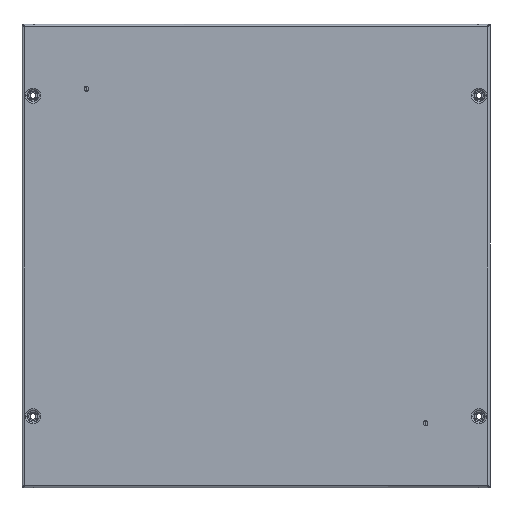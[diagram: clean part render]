
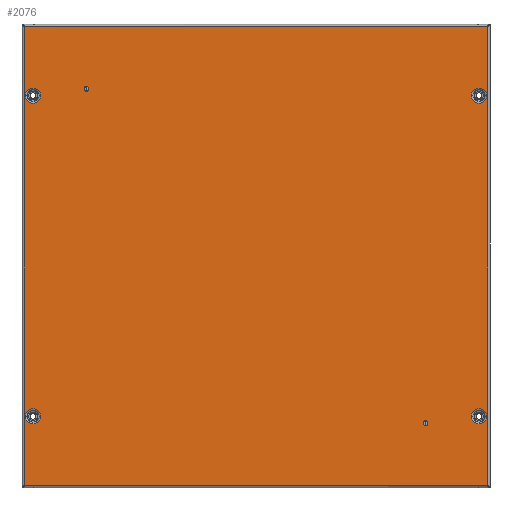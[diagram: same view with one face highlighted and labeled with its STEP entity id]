
A CAD part, top view. The second image highlights one B-rep face of the part: STEP entity #2076.
In plain terms, the highlighted planar face has unit normal (0, 0, 1) as drawn and (0, 0, -1) by its records, which use the part's own axes.
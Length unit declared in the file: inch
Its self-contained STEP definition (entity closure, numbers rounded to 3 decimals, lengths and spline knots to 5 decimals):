
#2060 = ORIENTED_EDGE ( 'NONE', *, *, #2344, .F. ) ;
#2061 = EDGE_CURVE ( 'NONE', #2577, #2586, #4369, .T. ) ;
#2062 = VERTEX_POINT ( 'NONE', #4361 ) ;
#2064 = EDGE_LOOP ( 'NONE', ( #2074, #2065 ) ) ;
#2065 = ORIENTED_EDGE ( 'NONE', *, *, #2061, .F. ) ;
#2066 = EDGE_LOOP ( 'NONE', ( #2080, #2071, #2078, #2084 ) ) ;
#2067 = EDGE_CURVE ( 'NONE', #2069, #2062, #4370, .T. ) ;
#2069 = VERTEX_POINT ( 'NONE', #4352 ) ;
#2070 = EDGE_CURVE ( 'NONE', #2062, #2077, #4349, .T. ) ;
#2071 = ORIENTED_EDGE ( 'NONE', *, *, #2067, .T. ) ;
#2072 = EDGE_LOOP ( 'NONE', ( #2081, #2060 ) ) ;
#2073 = ORIENTED_EDGE ( 'NONE', *, *, #2350, .F. ) ;
#2074 = ORIENTED_EDGE ( 'NONE', *, *, #2548, .F. ) ;
#2075 = EDGE_LOOP ( 'NONE', ( #2343, #2088 ) ) ;
#2076 = ADVANCED_FACE ( 'NONE', ( #4351, #4368, #4362, #4360, #4350 ), #4355, .F. ) ;
#2077 = VERTEX_POINT ( 'NONE', #4367 ) ;
#2078 = ORIENTED_EDGE ( 'NONE', *, *, #2070, .T. ) ;
#2080 = ORIENTED_EDGE ( 'NONE', *, *, #2090, .T. ) ;
#2081 = ORIENTED_EDGE ( 'NONE', *, *, #2407, .F. ) ;
#2083 = VERTEX_POINT ( 'NONE', #4389 ) ;
#2084 = ORIENTED_EDGE ( 'NONE', *, *, #2100, .T. ) ;
#2086 = EDGE_CURVE ( 'NONE', #2470, #2416, #4390, .T. ) ;
#2088 = ORIENTED_EDGE ( 'NONE', *, *, #2086, .F. ) ;
#2090 = EDGE_CURVE ( 'NONE', #2083, #2069, #4376, .T. ) ;
#2100 = EDGE_CURVE ( 'NONE', #2077, #2083, #4408, .T. ) ;
#2343 = ORIENTED_EDGE ( 'NONE', *, *, #2480, .F. ) ;
#2344 = EDGE_CURVE ( 'NONE', #2400, #2404, #4934, .T. ) ;
#2347 = EDGE_LOOP ( 'NONE', ( #2349, #2073 ) ) ;
#2349 = ORIENTED_EDGE ( 'NONE', *, *, #2720, .F. ) ;
#2350 = EDGE_CURVE ( 'NONE', #2385, #2373, #4967, .T. ) ;
#2373 = VERTEX_POINT ( 'NONE', #4983 ) ;
#2385 = VERTEX_POINT ( 'NONE', #4988 ) ;
#2400 = VERTEX_POINT ( 'NONE', #5073 ) ;
#2404 = VERTEX_POINT ( 'NONE', #5053 ) ;
#2407 = EDGE_CURVE ( 'NONE', #2404, #2400, #4808, .T. ) ;
#2416 = VERTEX_POINT ( 'NONE', #5106 ) ;
#2470 = VERTEX_POINT ( 'NONE', #5183 ) ;
#2480 = EDGE_CURVE ( 'NONE', #2416, #2470, #5205, .T. ) ;
#2548 = EDGE_CURVE ( 'NONE', #2586, #2577, #5367, .T. ) ;
#2577 = VERTEX_POINT ( 'NONE', #5425 ) ;
#2586 = VERTEX_POINT ( 'NONE', #5421 ) ;
#2720 = EDGE_CURVE ( 'NONE', #2373, #2385, #5674, .T. ) ;
#3538 = DIRECTION ( 'NONE',  ( 0., 0., -1. ) ) ;
#4315 = DIRECTION ( 'NONE',  ( 0., -1., 0. ) ) ;
#4342 = CARTESIAN_POINT ( 'NONE',  ( -11.5295, -11.6495, 0. ) ) ;
#4345 = AXIS2_PLACEMENT_3D ( 'NONE', #4342, #4392, #4391 ) ;
#4346 = DIRECTION ( 'NONE',  ( 0., -1., 0. ) ) ;
#4347 = VECTOR ( 'NONE', #4346, 39.37008 ) ;
#4348 = CARTESIAN_POINT ( 'NONE',  ( 11.4145, 11.58743, 0. ) ) ;
#4349 = LINE ( 'NONE', #4348, #4347 ) ;
#4350 = FACE_OUTER_BOUND ( 'NONE', #2066, .T. ) ;
#4351 = FACE_BOUND ( 'NONE', #2347, .T. ) ;
#4352 = CARTESIAN_POINT ( 'NONE',  ( -11.4145, 11.5345, 0. ) ) ;
#4353 = DIRECTION ( 'NONE',  ( 1., 0., 0. ) ) ;
#4354 = VECTOR ( 'NONE', #4353, 39.37008 ) ;
#4355 = PLANE ( 'NONE',  #4345 ) ;
#4356 = CARTESIAN_POINT ( 'NONE',  ( -11.46743, 11.5345, 0. ) ) ;
#4357 = DIRECTION ( 'NONE',  ( 0., -1., 0. ) ) ;
#4358 = DIRECTION ( 'NONE',  ( 0., 0., -1. ) ) ;
#4359 = CARTESIAN_POINT ( 'NONE',  ( -7.9855, -11.1025, 0. ) ) ;
#4360 = FACE_BOUND ( 'NONE', #2064, .T. ) ;
#4361 = CARTESIAN_POINT ( 'NONE',  ( 11.4145, 11.5345, 0. ) ) ;
#4362 = FACE_BOUND ( 'NONE', #2075, .T. ) ;
#4367 = CARTESIAN_POINT ( 'NONE',  ( 11.4145, -11.5345, 0. ) ) ;
#4368 = FACE_BOUND ( 'NONE', #2072, .T. ) ;
#4369 = CIRCLE ( 'NONE', #4372, 0.377 ) ;
#4370 = LINE ( 'NONE', #4356, #4354 ) ;
#4372 = AXIS2_PLACEMENT_3D ( 'NONE', #4359, #4358, #4357 ) ;
#4373 = DIRECTION ( 'NONE',  ( 0., 1., 0. ) ) ;
#4374 = VECTOR ( 'NONE', #4373, 39.37008 ) ;
#4375 = CARTESIAN_POINT ( 'NONE',  ( -11.4145, -11.58743, 0. ) ) ;
#4376 = LINE ( 'NONE', #4375, #4374 ) ;
#4381 = DIRECTION ( 'NONE',  ( 0., -1., 0. ) ) ;
#4382 = DIRECTION ( 'NONE',  ( 0., 0., -1. ) ) ;
#4383 = CARTESIAN_POINT ( 'NONE',  ( -7.9855, 11.1025, 0. ) ) ;
#4387 = AXIS2_PLACEMENT_3D ( 'NONE', #4383, #4382, #4381 ) ;
#4389 = CARTESIAN_POINT ( 'NONE',  ( -11.4145, -11.5345, 0. ) ) ;
#4390 = CIRCLE ( 'NONE', #4387, 0.377 ) ;
#4391 = DIRECTION ( 'NONE',  ( 1., 0., 0. ) ) ;
#4392 = DIRECTION ( 'NONE',  ( 0., 0., 1. ) ) ;
#4408 = LINE ( 'NONE', #4428, #4427 ) ;
#4426 = DIRECTION ( 'NONE',  ( -1., 0., 0. ) ) ;
#4427 = VECTOR ( 'NONE', #4426, 39.37008 ) ;
#4428 = CARTESIAN_POINT ( 'NONE',  ( 11.46743, -11.5345, 0. ) ) ;
#4798 = CARTESIAN_POINT ( 'NONE',  ( 7.9855, 11.1025, 0. ) ) ;
#4799 = AXIS2_PLACEMENT_3D ( 'NONE', #4798, #3538, #4315 ) ;
#4808 = CIRCLE ( 'NONE', #4799, 0.377 ) ;
#4918 = CARTESIAN_POINT ( 'NONE',  ( 7.9855, 11.1025, 0. ) ) ;
#4924 = AXIS2_PLACEMENT_3D ( 'NONE', #4918, #4979, #4978 ) ;
#4934 = CIRCLE ( 'NONE', #4924, 0.377 ) ;
#4963 = DIRECTION ( 'NONE',  ( 0., -1., 0. ) ) ;
#4964 = DIRECTION ( 'NONE',  ( 0., 0., -1. ) ) ;
#4965 = AXIS2_PLACEMENT_3D ( 'NONE', #4973, #4964, #4963 ) ;
#4967 = CIRCLE ( 'NONE', #4965, 0.377 ) ;
#4973 = CARTESIAN_POINT ( 'NONE',  ( 7.9855, -11.1025, 0. ) ) ;
#4978 = DIRECTION ( 'NONE',  ( 0., -1., 0. ) ) ;
#4979 = DIRECTION ( 'NONE',  ( 0., 0., -1. ) ) ;
#4983 = CARTESIAN_POINT ( 'NONE',  ( 7.9855, -11.4795, 0. ) ) ;
#4988 = CARTESIAN_POINT ( 'NONE',  ( 7.9855, -10.7255, 0. ) ) ;
#5053 = CARTESIAN_POINT ( 'NONE',  ( 7.9855, 10.7255, 0. ) ) ;
#5073 = CARTESIAN_POINT ( 'NONE',  ( 7.9855, 11.4795, 0. ) ) ;
#5106 = CARTESIAN_POINT ( 'NONE',  ( -7.9855, 10.7255, 0. ) ) ;
#5183 = CARTESIAN_POINT ( 'NONE',  ( -7.9855, 11.4795, 0. ) ) ;
#5201 = DIRECTION ( 'NONE',  ( 0., -1., 0. ) ) ;
#5202 = DIRECTION ( 'NONE',  ( 0., 0., -1. ) ) ;
#5203 = CARTESIAN_POINT ( 'NONE',  ( -7.9855, 11.1025, 0. ) ) ;
#5204 = AXIS2_PLACEMENT_3D ( 'NONE', #5203, #5202, #5201 ) ;
#5205 = CIRCLE ( 'NONE', #5204, 0.377 ) ;
#5364 = DIRECTION ( 'NONE',  ( 0., -1., 0. ) ) ;
#5365 = DIRECTION ( 'NONE',  ( 0., 0., -1. ) ) ;
#5366 = AXIS2_PLACEMENT_3D ( 'NONE', #5369, #5365, #5364 ) ;
#5367 = CIRCLE ( 'NONE', #5366, 0.377 ) ;
#5369 = CARTESIAN_POINT ( 'NONE',  ( -7.9855, -11.1025, 0. ) ) ;
#5421 = CARTESIAN_POINT ( 'NONE',  ( -7.9855, -11.4795, 0. ) ) ;
#5425 = CARTESIAN_POINT ( 'NONE',  ( -7.9855, -10.7255, 0. ) ) ;
#5674 = CIRCLE ( 'NONE', #5723, 0.377 ) ;
#5682 = CARTESIAN_POINT ( 'NONE',  ( 7.9855, -11.1025, 0. ) ) ;
#5717 = DIRECTION ( 'NONE',  ( 0., -1., 0. ) ) ;
#5718 = DIRECTION ( 'NONE',  ( 0., 0., -1. ) ) ;
#5723 = AXIS2_PLACEMENT_3D ( 'NONE', #5682, #5718, #5717 ) ;
